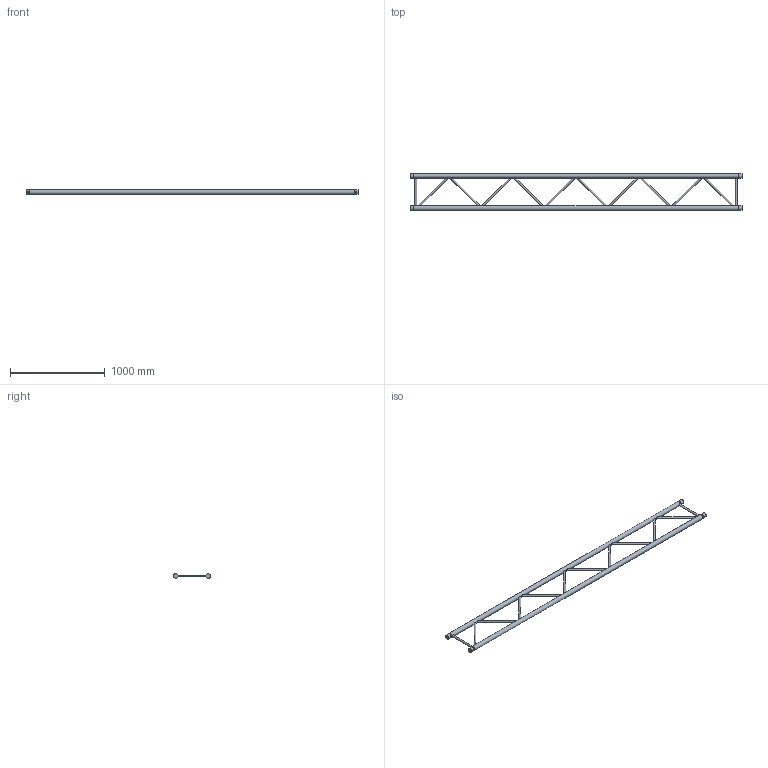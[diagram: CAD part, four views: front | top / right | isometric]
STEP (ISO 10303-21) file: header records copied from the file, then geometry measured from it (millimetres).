
FILE_DESCRIPTION(/* description */ (''),/* implementation_level */ '2;1');
FILE_NAME(/* name */ 'C:\Users\stephan\Desktop\Nieuwe map\H40L\111050480.stp',/* time_stamp */ '2016-09-12T12:53:58+02:00',/* author */ ('Stephan'),/* organization */ (''),/* preprocessor_version */ 'ST-DEVELOPER v15.6',/* originating_system */ 'Autodesk Inventor 2015',/* authorisation */ '');
FILE_SCHEMA (('AUTOMOTIVE_DESIGN { 1 0 10303 214 3 1 1 }'));
Length unit declared in the file: millimetre
Products named in the file (1): 160026987
Bounding box: 3500 x 387.3 x 48.3 mm (x, y, z)
Volume: 4723483.8 mm3; surface area: 2301018.7 mm2
Topology: 14 solids, 16 shells, 76 faces, 122 edges, 82 vertices
Faces by surface type: plane 44, cylinder 28, cone 4
Full cylindrical faces by diameter (mm): 10 x4, 20 x12, 41.8 x4, 42.3 x2, 48.3 x6
Entity records: 1968 total; most frequent: CARTESIAN_POINT 505, DIRECTION 270, ORIENTED_EDGE 160, AXIS2_PLACEMENT_3D 133, EDGE_LOOP 128, STYLED_ITEM 87, FACE_OUTER_BOUND 76, EDGE_CURVE 76
